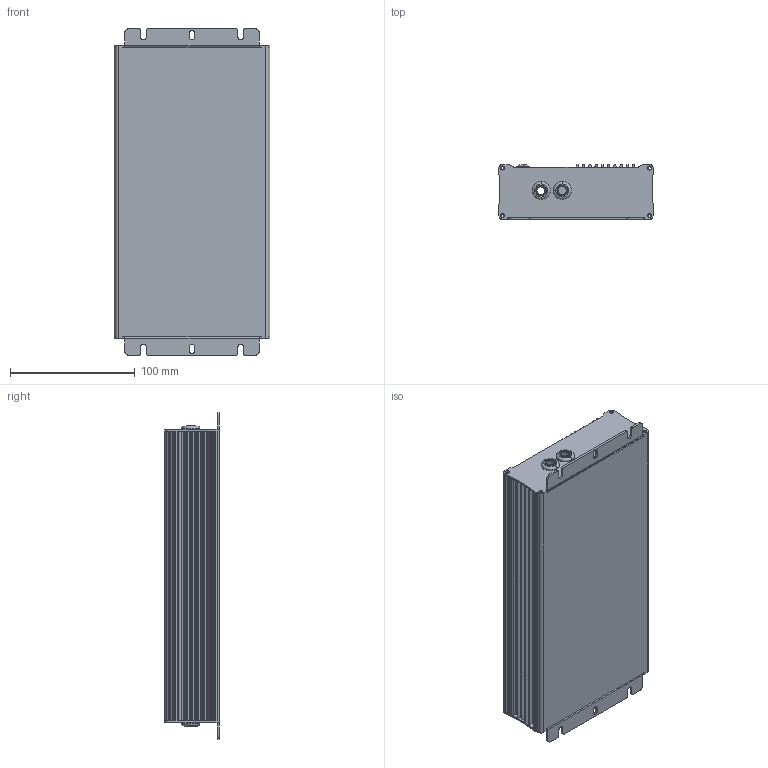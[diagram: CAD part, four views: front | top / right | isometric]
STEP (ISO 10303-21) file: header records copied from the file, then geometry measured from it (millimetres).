
FILE_DESCRIPTION(('Creo Elements/Direct Modeling STEP Export'),'2;1');
FILE_NAME('HEP-480-ATYPE.stp','2017-07-17T13:53:47',(''),(''),'PTC Creo Elements/Direct Modeling STEP processor for AP214 (Solid Model)','PTC Creo Elements/Direct Modeling 19.0 09-May-2014 (C) Parametric Technology GmbH','');
FILE_SCHEMA(('AUTOMOTIVE_DESIGN { 1 0 10303 214 1 1 1 1 }'));
Length unit declared in the file: millimetre
Products named in the file (2): HEP-480-ATYPE
Assembly tree (1 placements, depth 2):
  HEP-480-ATYPE
    HEP-480-ATYPE
Bounding box: 125.02 x 44.05 x 262 mm (x, y, z)
Volume: 226891.4 mm3; surface area: 212963.8 mm2
Topology: 1 solids, 4 shells, 646 faces, 1734 edges, 1122 vertices
Faces by surface type: plane 301, cylinder 265, cone 52, torus 24, sphere 4
Entity records: 18849 total; most frequent: ORIENTED_EDGE 3460, DIRECTION 3182, CARTESIAN_POINT 3164, EDGE_CURVE 1730, AXIS2_PLACEMENT_3D 1140, VERTEX_POINT 1122, VECTOR 902, LINE 902
